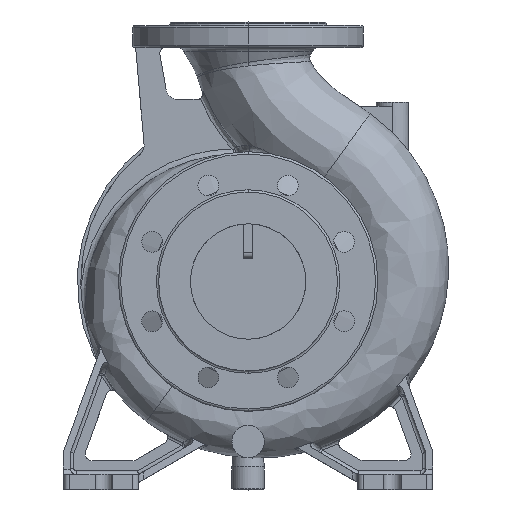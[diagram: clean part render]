
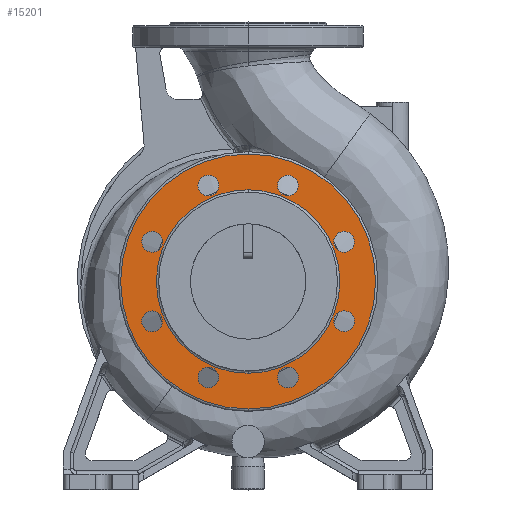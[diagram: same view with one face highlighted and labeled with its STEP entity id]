
A CAD part, top view. The second image highlights one B-rep face of the part: STEP entity #15201.
In plain terms, the highlighted planar face has unit normal (0, 0, 1).
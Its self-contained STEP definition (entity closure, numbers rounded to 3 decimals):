
#4974=CARTESIAN_POINT('',(0.,0.,122.));
#4975=DIRECTION('',(0.,0.,-1.));
#4976=DIRECTION('',(0.,-1.,0.));
#4977=AXIS2_PLACEMENT_3D('',#4974,#4975,#4976);
#4982=CARTESIAN_POINT('',(0.,0.,122.));
#4983=DIRECTION('',(0.,0.,-1.));
#4984=DIRECTION('',(0.,1.,0.));
#4985=AXIS2_PLACEMENT_3D('',#4982,#4983,#4984);
#4990=CARTESIAN_POINT('',(0.,0.,122.));
#4991=DIRECTION('',(0.,0.,1.));
#4992=DIRECTION('',(0.,1.,0.));
#4993=AXIS2_PLACEMENT_3D('',#4990,#4991,#4992);
#4998=CARTESIAN_POINT('',(0.,0.,122.));
#4999=DIRECTION('',(0.,0.,1.));
#5000=DIRECTION('',(0.,-1.,0.));
#5001=AXIS2_PLACEMENT_3D('',#4998,#4999,#5000);
#5006=CARTESIAN_POINT('',(-34.442,83.149,122.));
#5007=DIRECTION('',(0.,0.,1.));
#5008=DIRECTION('',(1.,0.,0.));
#5009=AXIS2_PLACEMENT_3D('',#5006,#5007,#5008);
#5014=CARTESIAN_POINT('',(-34.442,83.149,122.));
#5015=DIRECTION('',(0.,0.,1.));
#5016=DIRECTION('',(-1.,0.,0.));
#5017=AXIS2_PLACEMENT_3D('',#5014,#5015,#5016);
#5022=CARTESIAN_POINT('',(-83.149,34.442,122.));
#5023=DIRECTION('',(0.,0.,1.));
#5024=DIRECTION('',(0.707,0.707,0.));
#5025=AXIS2_PLACEMENT_3D('',#5022,#5023,#5024);
#5030=CARTESIAN_POINT('',(-83.149,34.442,122.));
#5031=DIRECTION('',(0.,0.,1.));
#5032=DIRECTION('',(-0.707,-0.707,0.));
#5033=AXIS2_PLACEMENT_3D('',#5030,#5031,#5032);
#5038=CARTESIAN_POINT('',(-83.149,-34.442,122.));
#5039=DIRECTION('',(0.,0.,1.));
#5040=DIRECTION('',(0.,1.,0.));
#5041=AXIS2_PLACEMENT_3D('',#5038,#5039,#5040);
#5046=CARTESIAN_POINT('',(-83.149,-34.442,122.));
#5047=DIRECTION('',(0.,0.,1.));
#5048=DIRECTION('',(0.,-1.,0.));
#5049=AXIS2_PLACEMENT_3D('',#5046,#5047,#5048);
#5054=CARTESIAN_POINT('',(-34.442,-83.149,122.));
#5055=DIRECTION('',(0.,0.,1.));
#5056=DIRECTION('',(-0.707,0.707,0.));
#5057=AXIS2_PLACEMENT_3D('',#5054,#5055,#5056);
#5062=CARTESIAN_POINT('',(-34.442,-83.149,122.));
#5063=DIRECTION('',(0.,0.,1.));
#5064=DIRECTION('',(0.707,-0.707,0.));
#5065=AXIS2_PLACEMENT_3D('',#5062,#5063,#5064);
#5070=CARTESIAN_POINT('',(34.442,-83.149,122.));
#5071=DIRECTION('',(0.,0.,1.));
#5072=DIRECTION('',(-1.,0.,0.));
#5073=AXIS2_PLACEMENT_3D('',#5070,#5071,#5072);
#5078=CARTESIAN_POINT('',(34.442,-83.149,122.));
#5079=DIRECTION('',(0.,0.,1.));
#5080=DIRECTION('',(1.,0.,0.));
#5081=AXIS2_PLACEMENT_3D('',#5078,#5079,#5080);
#5086=CARTESIAN_POINT('',(83.149,-34.442,122.));
#5087=DIRECTION('',(0.,0.,1.));
#5088=DIRECTION('',(-0.707,-0.707,0.));
#5089=AXIS2_PLACEMENT_3D('',#5086,#5087,#5088);
#5094=CARTESIAN_POINT('',(83.149,-34.442,122.));
#5095=DIRECTION('',(0.,0.,1.));
#5096=DIRECTION('',(0.707,0.707,0.));
#5097=AXIS2_PLACEMENT_3D('',#5094,#5095,#5096);
#5102=CARTESIAN_POINT('',(83.149,34.442,122.));
#5103=DIRECTION('',(0.,0.,1.));
#5104=DIRECTION('',(0.,-1.,0.));
#5105=AXIS2_PLACEMENT_3D('',#5102,#5103,#5104);
#5110=CARTESIAN_POINT('',(83.149,34.442,122.));
#5111=DIRECTION('',(0.,0.,1.));
#5112=DIRECTION('',(0.,1.,0.));
#5113=AXIS2_PLACEMENT_3D('',#5110,#5111,#5112);
#5118=CARTESIAN_POINT('',(34.442,83.149,122.));
#5119=DIRECTION('',(0.,0.,1.));
#5120=DIRECTION('',(0.707,-0.707,0.));
#5121=AXIS2_PLACEMENT_3D('',#5118,#5119,#5120);
#5126=CARTESIAN_POINT('',(34.442,83.149,122.));
#5127=DIRECTION('',(0.,0.,1.));
#5128=DIRECTION('',(-0.707,0.707,0.));
#5129=AXIS2_PLACEMENT_3D('',#5126,#5127,#5128);
#7429=CARTESIAN_POINT('',(0.,-79.5,122.));
#7430=CARTESIAN_POINT('',(0.,79.5,122.));
#7431=VERTEX_POINT('',#7429);
#7432=VERTEX_POINT('',#7430);
#7433=CARTESIAN_POINT('',(0.,110.5,122.));
#7434=CARTESIAN_POINT('',(0.,-110.5,122.));
#7435=VERTEX_POINT('',#7433);
#7436=VERTEX_POINT('',#7434);
#8086=CARTESIAN_POINT('',(-25.442,83.149,122.));
#8087=CARTESIAN_POINT('',(-43.442,83.149,122.));
#8088=VERTEX_POINT('',#8086);
#8089=VERTEX_POINT('',#8087);
#8094=CARTESIAN_POINT('',(-76.785,40.805,122.));
#8095=CARTESIAN_POINT('',(-89.513,28.078,122.));
#8096=VERTEX_POINT('',#8094);
#8097=VERTEX_POINT('',#8095);
#8102=CARTESIAN_POINT('',(-83.149,-25.442,122.));
#8103=CARTESIAN_POINT('',(-83.149,-43.442,122.));
#8104=VERTEX_POINT('',#8102);
#8105=VERTEX_POINT('',#8103);
#8110=CARTESIAN_POINT('',(-40.805,-76.785,122.));
#8111=CARTESIAN_POINT('',(-28.078,-89.513,122.));
#8112=VERTEX_POINT('',#8110);
#8113=VERTEX_POINT('',#8111);
#8118=CARTESIAN_POINT('',(25.442,-83.149,122.));
#8119=CARTESIAN_POINT('',(43.442,-83.149,122.));
#8120=VERTEX_POINT('',#8118);
#8121=VERTEX_POINT('',#8119);
#8126=CARTESIAN_POINT('',(76.785,-40.805,122.));
#8127=CARTESIAN_POINT('',(89.513,-28.078,122.));
#8128=VERTEX_POINT('',#8126);
#8129=VERTEX_POINT('',#8127);
#8134=CARTESIAN_POINT('',(83.149,25.442,122.));
#8135=CARTESIAN_POINT('',(83.149,43.442,122.));
#8136=VERTEX_POINT('',#8134);
#8137=VERTEX_POINT('',#8135);
#8142=CARTESIAN_POINT('',(40.805,76.785,122.));
#8143=CARTESIAN_POINT('',(28.078,89.513,122.));
#8144=VERTEX_POINT('',#8142);
#8145=VERTEX_POINT('',#8143);
#15137=CARTESIAN_POINT('',(0.,0.,122.));
#15138=DIRECTION('',(0.,0.,-1.));
#15139=DIRECTION('',(0.,-1.,0.));
#15140=AXIS2_PLACEMENT_3D('',#15137,#15138,#15139);
#15141=PLANE('',#15140);
#15142=ORIENTED_EDGE('',*,*,#15127,.F.);
#15144=ORIENTED_EDGE('',*,*,#15143,.F.);
#15145=EDGE_LOOP('',(#15142,#15144));
#15146=FACE_OUTER_BOUND('',#15145,.F.);
#15148=ORIENTED_EDGE('',*,*,#15147,.F.);
#15150=ORIENTED_EDGE('',*,*,#15149,.F.);
#15151=EDGE_LOOP('',(#15148,#15150));
#15152=FACE_BOUND('',#15151,.F.);
#15154=ORIENTED_EDGE('',*,*,#15153,.T.);
#15156=ORIENTED_EDGE('',*,*,#15155,.T.);
#15157=EDGE_LOOP('',(#15154,#15156));
#15158=FACE_BOUND('',#15157,.F.);
#15160=ORIENTED_EDGE('',*,*,#15159,.T.);
#15162=ORIENTED_EDGE('',*,*,#15161,.T.);
#15163=EDGE_LOOP('',(#15160,#15162));
#15164=FACE_BOUND('',#15163,.F.);
#15166=ORIENTED_EDGE('',*,*,#15165,.T.);
#15168=ORIENTED_EDGE('',*,*,#15167,.T.);
#15169=EDGE_LOOP('',(#15166,#15168));
#15170=FACE_BOUND('',#15169,.F.);
#15172=ORIENTED_EDGE('',*,*,#15171,.T.);
#15174=ORIENTED_EDGE('',*,*,#15173,.T.);
#15175=EDGE_LOOP('',(#15172,#15174));
#15176=FACE_BOUND('',#15175,.F.);
#15178=ORIENTED_EDGE('',*,*,#15177,.T.);
#15180=ORIENTED_EDGE('',*,*,#15179,.T.);
#15181=EDGE_LOOP('',(#15178,#15180));
#15182=FACE_BOUND('',#15181,.F.);
#15184=ORIENTED_EDGE('',*,*,#15183,.T.);
#15186=ORIENTED_EDGE('',*,*,#15185,.T.);
#15187=EDGE_LOOP('',(#15184,#15186));
#15188=FACE_BOUND('',#15187,.F.);
#15190=ORIENTED_EDGE('',*,*,#15189,.T.);
#15192=ORIENTED_EDGE('',*,*,#15191,.T.);
#15193=EDGE_LOOP('',(#15190,#15192));
#15194=FACE_BOUND('',#15193,.F.);
#15196=ORIENTED_EDGE('',*,*,#15195,.T.);
#15198=ORIENTED_EDGE('',*,*,#15197,.T.);
#15199=EDGE_LOOP('',(#15196,#15198));
#15200=FACE_BOUND('',#15199,.F.);
#4978=CIRCLE('',#4977,79.5);
#4986=CIRCLE('',#4985,79.5);
#4994=CIRCLE('',#4993,110.5);
#5002=CIRCLE('',#5001,110.5);
#5010=CIRCLE('',#5009,9.);
#5018=CIRCLE('',#5017,9.);
#5026=CIRCLE('',#5025,9.);
#5034=CIRCLE('',#5033,9.);
#5042=CIRCLE('',#5041,9.);
#5050=CIRCLE('',#5049,9.);
#5058=CIRCLE('',#5057,9.);
#5066=CIRCLE('',#5065,9.);
#5074=CIRCLE('',#5073,9.);
#5082=CIRCLE('',#5081,9.);
#5090=CIRCLE('',#5089,9.);
#5098=CIRCLE('',#5097,9.);
#5106=CIRCLE('',#5105,9.);
#5114=CIRCLE('',#5113,9.);
#5122=CIRCLE('',#5121,9.);
#5130=CIRCLE('',#5129,9.);
#15127=EDGE_CURVE('',#7435,#7436,#4994,.T.);
#15143=EDGE_CURVE('',#7436,#7435,#5002,.T.);
#15147=EDGE_CURVE('',#7431,#7432,#4978,.T.);
#15149=EDGE_CURVE('',#7432,#7431,#4986,.T.);
#15153=EDGE_CURVE('',#8088,#8089,#5010,.T.);
#15155=EDGE_CURVE('',#8089,#8088,#5018,.T.);
#15159=EDGE_CURVE('',#8096,#8097,#5026,.T.);
#15161=EDGE_CURVE('',#8097,#8096,#5034,.T.);
#15165=EDGE_CURVE('',#8104,#8105,#5042,.T.);
#15167=EDGE_CURVE('',#8105,#8104,#5050,.T.);
#15171=EDGE_CURVE('',#8112,#8113,#5058,.T.);
#15173=EDGE_CURVE('',#8113,#8112,#5066,.T.);
#15177=EDGE_CURVE('',#8120,#8121,#5074,.T.);
#15179=EDGE_CURVE('',#8121,#8120,#5082,.T.);
#15183=EDGE_CURVE('',#8128,#8129,#5090,.T.);
#15185=EDGE_CURVE('',#8129,#8128,#5098,.T.);
#15189=EDGE_CURVE('',#8136,#8137,#5106,.T.);
#15191=EDGE_CURVE('',#8137,#8136,#5114,.T.);
#15195=EDGE_CURVE('',#8144,#8145,#5122,.T.);
#15197=EDGE_CURVE('',#8145,#8144,#5130,.T.);
#15201=ADVANCED_FACE('',(#15146,#15152,#15158,#15164,#15170,#15176,#15182,
#15188,#15194,#15200),#15141,.F.);
